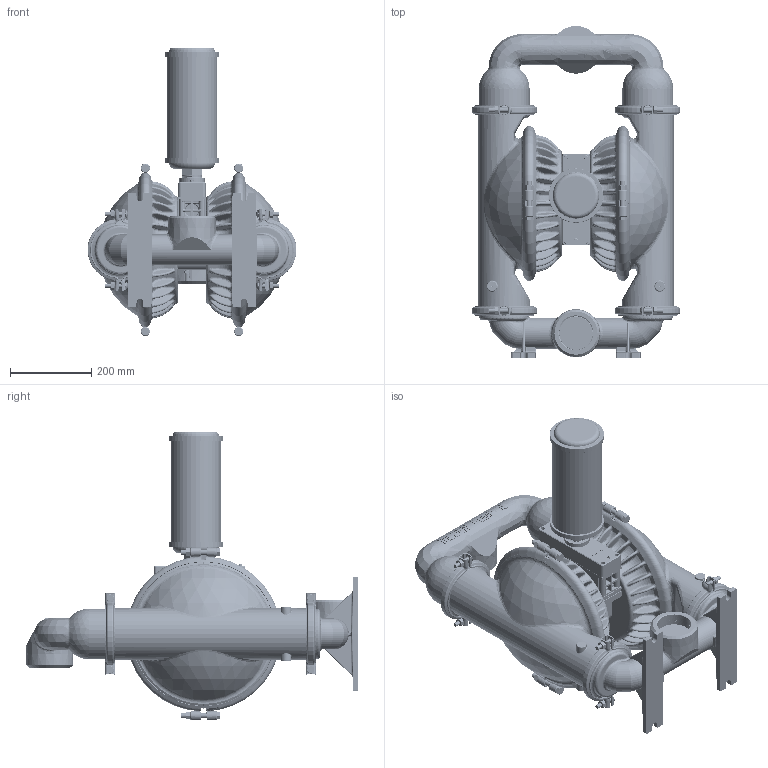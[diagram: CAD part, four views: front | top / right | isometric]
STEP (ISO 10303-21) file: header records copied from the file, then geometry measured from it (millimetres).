
FILE_DESCRIPTION (( 'STEP AP203' ), '1' );
FILE_NAME ('ps15_alum_top.STEP', '2022-07-01T10:55:58', ( '' ), ( '' ), 'SwSTEP 2.0', 'SolidWorks 2019', '' );
FILE_SCHEMA (( 'CONFIG_CONTROL_DESIGN' ));
Length unit declared in the file: inch
Products named in the file (1): ps15_alum_top
Bounding box: 513.04 x 816.02 x 710 mm (x, y, z)
Volume: 45353215 mm3; surface area: 1995808.7 mm2
Topology: 1 solids, 1 shells, 7356 faces, 18933 edges, 11735 vertices
Faces by surface type: plane 3619, bspline 1868, cylinder 842, cone 571, torus 340, sphere 116
Entity records: 553410 total; most frequent: CARTESIAN_POINT 390435, ORIENTED_EDGE 37818, DIRECTION 28046, EDGE_CURVE 18909, VERTEX_POINT 11735, VECTOR 10212, LINE 10212, AXIS2_PLACEMENT_3D 8917
